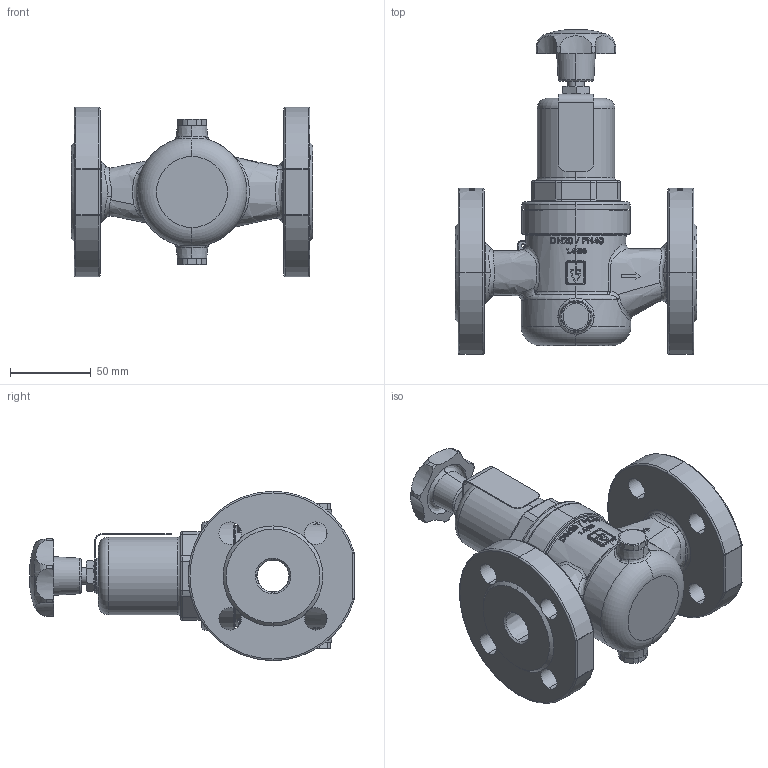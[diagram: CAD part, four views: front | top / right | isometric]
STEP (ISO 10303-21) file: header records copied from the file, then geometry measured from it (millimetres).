
FILE_DESCRIPTION (( 'STEP AP214' ), '1' );
FILE_NAME ('482mGFO-SP_20_FLFL_2020.STEP', '2022-06-22T12:04:30', ( '' ), ( '' ), 'SwSTEP 2.0', 'SolidWorks 2020', '' );
FILE_SCHEMA (( 'AUTOMOTIVE_DESIGN' ));
Length unit declared in the file: millimetre
Products named in the file (1): 482mGFO-SP_20_FLFL_2020
Bounding box: 150 x 201.43 x 105 mm (x, y, z)
Volume: 437325.4 mm3; surface area: 140321.9 mm2
Topology: 8 solids, 8 shells, 1302 faces, 3341 edges, 2129 vertices
Faces by surface type: plane 487, bspline 344, cylinder 303, torus 88, cone 68, sphere 12
Entity records: 75553 total; most frequent: CARTESIAN_POINT 32583, ORIENTED_EDGE 6634, DIRECTION 4982, EDGE_CURVE 3317, VERTEX_POINT 2129, AXIS2_PLACEMENT_3D 1868, EDGE_LOOP 1432, UNCERTAINTY_MEASURE_WITH_UNIT 1312
